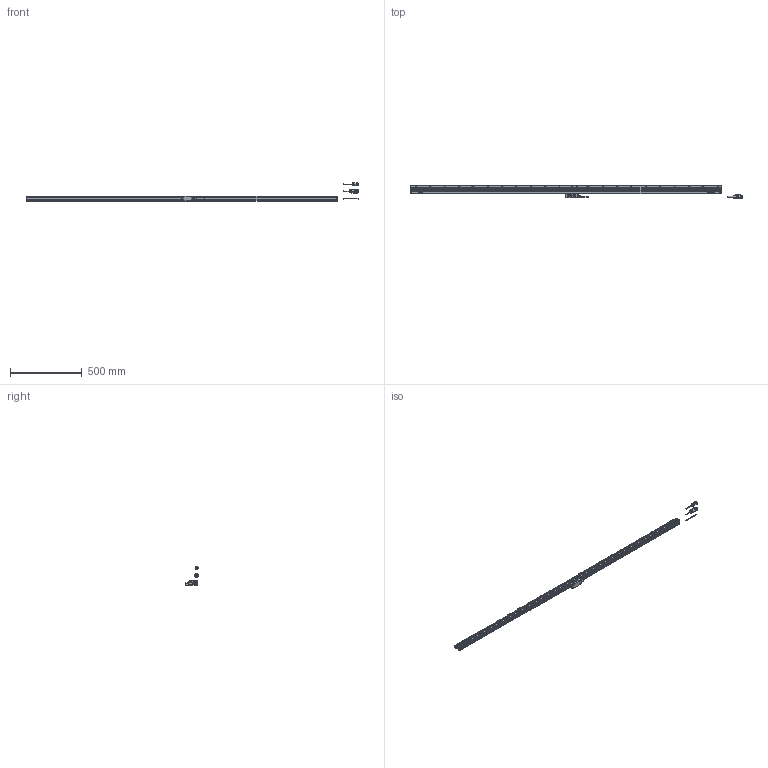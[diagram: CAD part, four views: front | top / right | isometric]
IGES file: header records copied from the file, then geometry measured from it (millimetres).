
Start section: Elysium IGES Interface
Global section: file name: 66H\\Utsu119s\kiyo_cad\data\3D\AT402E\HP掲載用_201708\AT402E-2040.igs; native system: Creo Elements/Direct Modeling 18.1B  29-Sep-2012; preprocessor: Creo Element/Direct IGES_3D V2.2; author: Unknown; organization: Unknown; date: 20180221.131735; units: millimetre
Bounding box: 2309.57 x 90 x 130.25 mm (x, y, z)
Volume: 3580388.9 mm3; surface area: 460869.8 mm2
Topology: 5 solids, 5 shells, 1579 faces, 4728 edges, 3187 vertices
Faces by surface type: bspline 1579
